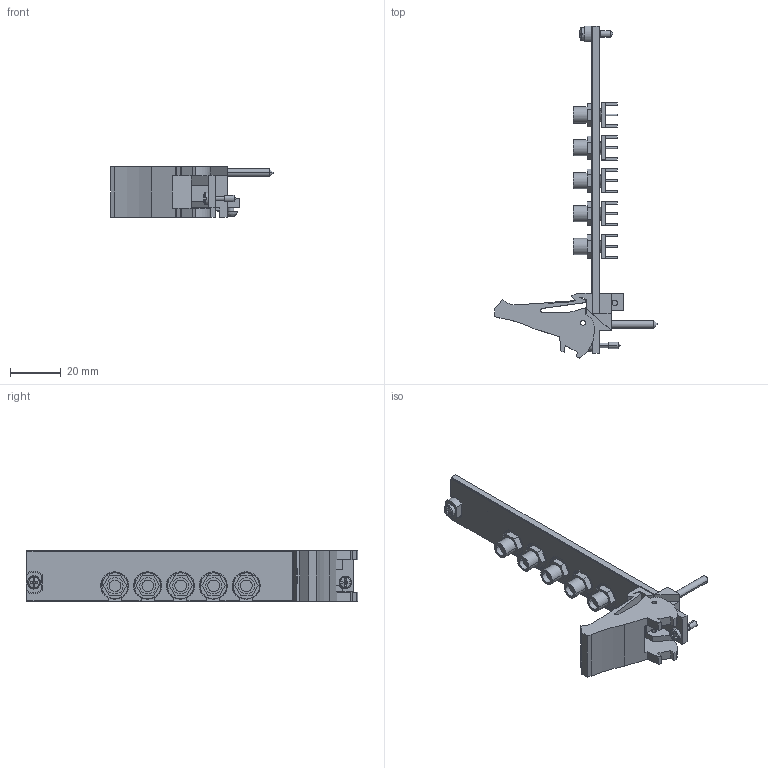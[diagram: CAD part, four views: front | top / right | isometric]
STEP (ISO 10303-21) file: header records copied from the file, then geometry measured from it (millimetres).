
FILE_DESCRIPTION((''),'2;1');
FILE_NAME('CU_PXI-2594','2009-09-08T',('jjorden'),(''),'PRO/ENGINEER BY PARAMETRIC TECHNOLOGY CORPORATION, 2006080','PRO/ENGINEER BY PARAMETRIC TECHNOLOGY CORPORATION, 2006080','');
FILE_SCHEMA(('CONFIG_CONTROL_DESIGN'));
Length unit declared in the file: inch
Products named in the file (1): CU_PXI-2594
Bounding box: 63.73 x 130.5 x 20.02 mm (x, y, z)
Volume: 16883.5 mm3; surface area: 14624.3 mm2
Topology: 2 solids, 2 shells, 585 faces, 1504 edges, 970 vertices
Faces by surface type: plane 411, cylinder 130, cone 24, sphere 8, torus 6, bspline 6
Entity records: 18093 total; most frequent: CARTESIAN_POINT 3559, ORIENTED_EDGE 2992, DIRECTION 2987, EDGE_CURVE 1496, VECTOR 1101, LINE 1101, VERTEX_POINT 989, AXIS2_PLACEMENT_3D 943
